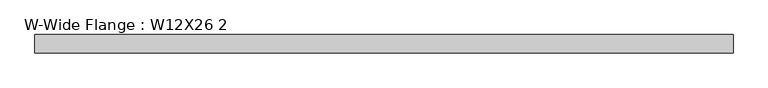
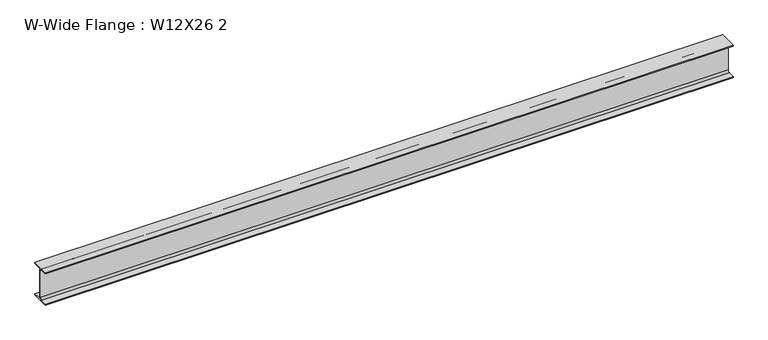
"""IFC4 building model written with IfcOpenShell, lengths in millimetres: beam geometry, W-Wide Flange : W12X26 2."""

from ifc_helpers import new_model, si_unit, point, frame, frame_2d, origin, place, context, project, spatial, polyline, circle_curve, trimmed, segment, composite_curve, outline, extrude, source, transform, mapped, element, save


def w_wide_flange_w12x26_2_f84e31c7(model_context):
    return source(origin(), model_context, "Body", "SweptSolid", [
        extrude(outline(composite_curve([segment(polyline([(82.4011719, -145.5539063), (82.4011719, -155.178125), (-82.4011719, -155.178125), (-82.4011719, -145.5539063), (-20.2902344, -145.5539063)]), True, "CONTINUOUS"), segment(trimmed(circle_curve(frame_2d((-20.2902344, -128.190625)), 17.3632812), [point((-20.2902344, -145.5539063))], [point((-2.9269531, -128.190625))], True, "CARTESIAN"), True, "CONTINUOUS"), segment(polyline([(-2.9269531, -128.190625), (-2.9269531, 128.190625)]), True, "CONTINUOUS"), segment(trimmed(circle_curve(frame_2d((-20.2902344, 128.190625)), 17.3632812), [point((-2.9269531, 128.190625))], [point((-20.2902344, 145.5539062))], True, "CARTESIAN"), True, "CONTINUOUS"), segment(polyline([(-20.2902344, 145.5539062), (-82.4011719, 145.5539062), (-82.4011719, 155.178125), (82.4011719, 155.178125), (82.4011719, 145.5539062), (20.2902344, 145.5539062)]), True, "CONTINUOUS"), segment(trimmed(circle_curve(frame_2d((20.2902344, 128.190625)), 17.3632812), [point((20.2902344, 145.5539062))], [point((2.9269531, 128.190625))], True, "CARTESIAN"), True, "CONTINUOUS"), segment(polyline([(2.9269531, 128.190625), (2.9269531, -128.190625)]), True, "CONTINUOUS"), segment(trimmed(circle_curve(frame_2d((20.2902344, -128.190625)), 17.3632812), [point((2.9269531, -128.190625))], [point((20.2902344, -145.5539063))], True, "CARTESIAN"), True, "CONTINUOUS"), segment(polyline([(20.2902344, -145.5539063), (82.4011719, -145.5539063)]), True, "CONTINUOUS")], self_intersect=False)), frame((-3112.488714, 0.0, 0.0), z_axis=(1.0, 0.0, 0.0), x_axis=(0.0, 1.0, 0.0)), (0.0, 0.0, 1.0), 6224.977428),
    ])


if __name__ == "__main__":
    model = new_model("IFC4")
    model_context = context("Model", 3, world=origin())
    ifc_project = project(units=[si_unit("LENGTHUNIT", "METRE", prefix="MILLI")], contexts=[model_context])
    site = spatial("IfcSite", under=ifc_project)
    building = spatial("IfcBuilding", under=site)
    placement = place(None, origin())
    w_wide_flange_w12x26_2_shape = w_wide_flange_w12x26_2_f84e31c7(model_context)
    element("IfcBeam", 1, ObjectType="W-Wide Flange : W12X26 2", at=placement, inside=building, context=model_context, shape_type="MappedRepresentation", body=[
        mapped(w_wide_flange_w12x26_2_shape, transform((0.0, 0.0, 0.0), x_axis=(1.0, 0.0, 0.0), y_axis=(0.0, 1.0, 0.0), z_axis=(0.0, 0.0, 1.0))),
    ])
    save(model, "model.ifc")
